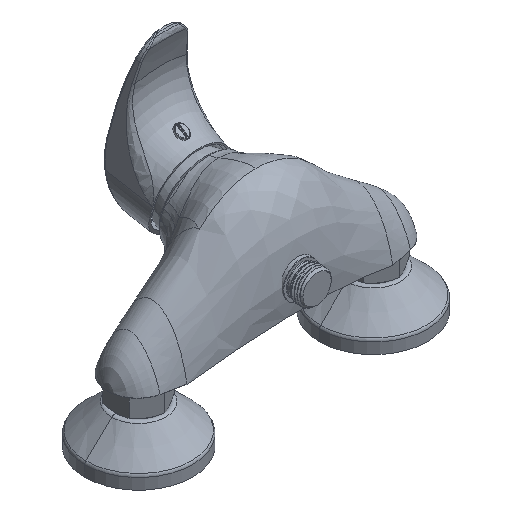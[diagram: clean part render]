
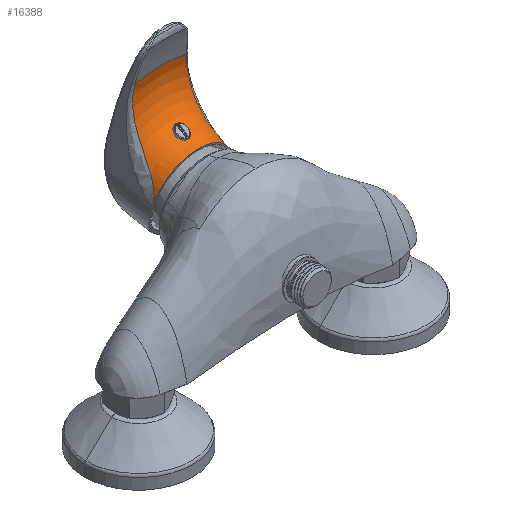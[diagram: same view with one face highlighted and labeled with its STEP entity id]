
A CAD part, isometric view. The second image highlights one B-rep face of the part: STEP entity #16388.
In plain terms, the highlighted toroidal (fillet/blend) face has major radius 55.569 mm and minor radius 29.569 mm.
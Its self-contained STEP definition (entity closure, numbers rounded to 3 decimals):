
#9691=CARTESIAN_POINT('',(-25.516,40.25,5.839));
#9692=CARTESIAN_POINT('',(-25.426,40.256,6.307));
#9693=CARTESIAN_POINT('',(-25.218,40.326,7.274));
#9694=CARTESIAN_POINT('',(-24.823,40.607,8.784));
#9695=CARTESIAN_POINT('',(-24.321,41.072,10.424));
#9696=CARTESIAN_POINT('',(-23.745,41.775,12.12));
#9697=CARTESIAN_POINT('',(-23.11,42.677,13.866));
#9698=CARTESIAN_POINT('',(-22.476,43.713,15.562));
#9699=CARTESIAN_POINT('',(-21.918,44.808,17.109));
#9700=CARTESIAN_POINT('',(-21.402,45.951,18.616));
#9701=CARTESIAN_POINT('',(-20.93,47.153,20.123));
#9702=CARTESIAN_POINT('',(-20.504,48.397,21.648));
#9703=CARTESIAN_POINT('',(-20.128,49.65,23.189));
#9704=CARTESIAN_POINT('',(-19.803,50.899,24.754));
#9705=CARTESIAN_POINT('',(-19.513,52.164,26.406));
#9706=CARTESIAN_POINT('',(-19.246,53.5,28.251));
#9707=CARTESIAN_POINT('',(-18.99,54.951,30.427));
#9708=CARTESIAN_POINT('',(-18.746,56.505,33.048));
#9709=CARTESIAN_POINT('',(-18.514,58.022,36.074));
#9710=CARTESIAN_POINT('',(-18.293,59.313,39.278));
#9711=CARTESIAN_POINT('',(-18.067,60.303,42.5));
#9712=CARTESIAN_POINT('',(-17.819,60.996,45.704));
#9713=CARTESIAN_POINT('',(-17.539,61.408,48.896));
#9714=CARTESIAN_POINT('',(-17.22,61.545,52.075));
#9715=CARTESIAN_POINT('',(-16.855,61.408,55.218));
#9716=CARTESIAN_POINT('',(-16.582,61.139,57.278));
#9717=CARTESIAN_POINT('',(-16.441,60.96,58.294));
#9727=CARTESIAN_POINT('',(25.462,40.203,6.106));
#9728=CARTESIAN_POINT('',(25.354,40.186,6.636));
#9729=CARTESIAN_POINT('',(25.102,40.216,7.71));
#9730=CARTESIAN_POINT('',(24.634,40.455,9.344));
#9731=CARTESIAN_POINT('',(24.063,40.896,11.04));
#9732=CARTESIAN_POINT('',(23.434,41.578,12.728));
#9733=CARTESIAN_POINT('',(22.768,42.454,14.416));
#9734=CARTESIAN_POINT('',(22.111,43.475,16.049));
#9735=CARTESIAN_POINT('',(21.539,44.571,17.542));
#9736=CARTESIAN_POINT('',(21.02,45.716,18.989));
#9737=CARTESIAN_POINT('',(20.55,46.932,20.443));
#9738=CARTESIAN_POINT('',(20.141,48.173,21.893));
#9739=CARTESIAN_POINT('',(19.79,49.417,23.35));
#9740=CARTESIAN_POINT('',(19.487,50.682,24.863));
#9741=CARTESIAN_POINT('',(19.22,51.983,26.489));
#9742=CARTESIAN_POINT('',(18.973,53.405,28.376));
#9743=CARTESIAN_POINT('',(18.738,54.996,30.7));
#9744=CARTESIAN_POINT('',(18.532,56.618,33.411));
#9745=CARTESIAN_POINT('',(18.348,58.131,36.434));
#9746=CARTESIAN_POINT('',(18.175,59.388,39.574));
#9747=CARTESIAN_POINT('',(17.991,60.352,42.739));
#9748=CARTESIAN_POINT('',(17.78,61.024,45.892));
#9749=CARTESIAN_POINT('',(17.529,61.419,49.034));
#9750=CARTESIAN_POINT('',(17.228,61.544,52.164));
#9751=CARTESIAN_POINT('',(16.869,61.404,55.261));
#9752=CARTESIAN_POINT('',(16.589,61.136,57.292));
#9753=CARTESIAN_POINT('',(16.441,60.96,58.294));
#10077=CARTESIAN_POINT('',(0.,70.132,
6.011));
#10078=DIRECTION('',(0.,-0.985,
-0.173));
#10079=DIRECTION('',(0.296,-0.165,0.941));
#10080=AXIS2_PLACEMENT_3D('',#10077,#10078,#10079);
#10532=CARTESIAN_POINT('',(0.,41.113,0.921));
#10533=DIRECTION('',(0.,0.985,0.173));
#10534=DIRECTION('',(-0.981,-0.033,0.189));
#10535=AXIS2_PLACEMENT_3D('',#10532,#10533,#10534);
#14192=CARTESIAN_POINT('',(16.441,60.96,58.294));
#14193=CARTESIAN_POINT('',(-16.441,60.96,
58.294));
#14194=VERTEX_POINT('',#14192);
#14195=VERTEX_POINT('',#14193);
#14249=CARTESIAN_POINT('',(-25.516,40.25,
5.839));
#14250=CARTESIAN_POINT('',(25.462,40.203,6.106));
#14251=VERTEX_POINT('',#14249);
#14252=VERTEX_POINT('',#14250);
#16373=CARTESIAN_POINT('',(0.,41.008,0.902));
#16374=DIRECTION('',(0.,0.985,0.173));
#16375=DIRECTION('',(0.,-0.173,0.985));
#16376=AXIS2_PLACEMENT_3D('',#16373,#16374,#16375);
#16377=TOROIDAL_SURFACE('',#16376,55.569,29.569);
#16379=ORIENTED_EDGE('',*,*,#16378,.T.);
#16381=ORIENTED_EDGE('',*,*,#16380,.F.);
#16383=ORIENTED_EDGE('',*,*,#16382,.F.);
#16385=ORIENTED_EDGE('',*,*,#16384,.F.);
#16386=EDGE_LOOP('',(#16379,#16381,#16383,#16385));
#16387=FACE_OUTER_BOUND('',#16386,.F.);
#16388=ADVANCED_FACE('',(#16387),#16377,.F.);
#9718=B_SPLINE_CURVE_WITH_KNOTS('',3,(#9691,#9692,#9693,#9694,#9695,#9696,#9697,
#9698,#9699,#9700,#9701,#9702,#9703,#9704,#9705,#9706,#9707,#9708,#9709,#9710,
#9711,#9712,#9713,#9714,#9715,#9716,#9717),.UNSPECIFIED.,.F.,.F.,(4,1,1,1,1,1,1,
1,1,1,1,1,1,1,1,1,1,1,1,1,1,1,1,1,4),(0.,0.042,0.083,
0.125,0.167,0.208,0.25,0.292,
0.333,0.375,0.417,0.458,0.5,
0.542,0.583,0.625,0.667,0.708,
0.75,0.792,0.833,0.875,0.917,
0.958,1.),.UNSPECIFIED.);
#9754=B_SPLINE_CURVE_WITH_KNOTS('',3,(#9727,#9728,#9729,#9730,#9731,#9732,#9733,
#9734,#9735,#9736,#9737,#9738,#9739,#9740,#9741,#9742,#9743,#9744,#9745,#9746,
#9747,#9748,#9749,#9750,#9751,#9752,#9753),.UNSPECIFIED.,.F.,.F.,(4,1,1,1,1,1,1,
1,1,1,1,1,1,1,1,1,1,1,1,1,1,1,1,1,4),(0.,0.042,0.083,
0.125,0.167,0.208,0.25,0.292,
0.333,0.375,0.417,0.458,0.5,
0.542,0.583,0.625,0.667,0.708,
0.75,0.792,0.833,0.875,0.917,
0.958,1.),.UNSPECIFIED.);
#10081=CIRCLE('',#10080,55.569);
#10536=CIRCLE('',#10535,26.);
#16378=EDGE_CURVE('',#14251,#14195,#9718,.T.);
#16380=EDGE_CURVE('',#14194,#14195,#10081,.T.);
#16382=EDGE_CURVE('',#14252,#14194,#9754,.T.);
#16384=EDGE_CURVE('',#14251,#14252,#10536,.T.);
